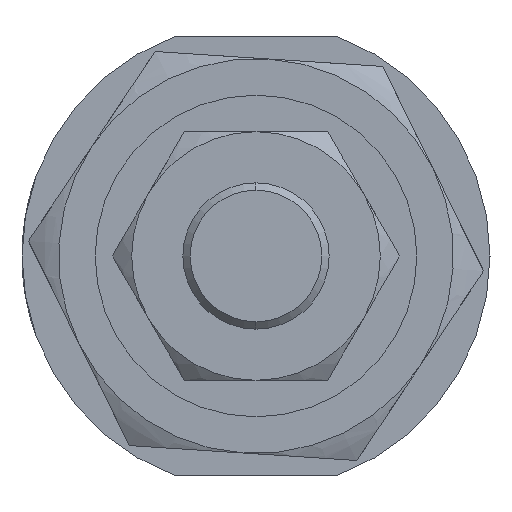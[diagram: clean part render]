
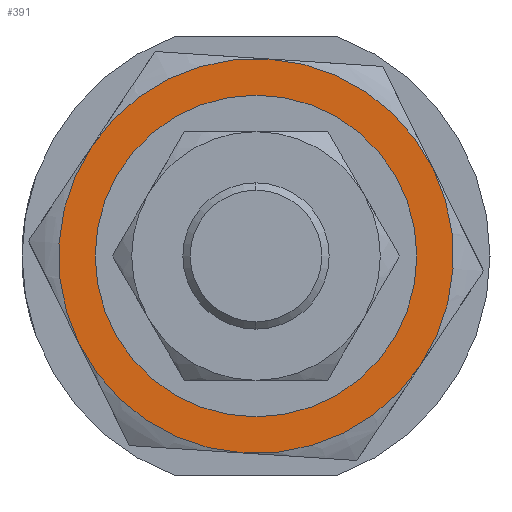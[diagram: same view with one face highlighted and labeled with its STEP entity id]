
A CAD part, left-side view. The second image highlights one B-rep face of the part: STEP entity #391.
In plain terms, the highlighted planar face has unit normal (-1, 0, 0) as drawn and (0, 0, -1) by its records, which use the part's own axes.
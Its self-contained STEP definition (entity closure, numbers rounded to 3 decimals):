
#85 = CARTESIAN_POINT ( 'NONE',  ( 0., 0., -5. ) ) ;
#168 = CIRCLE ( 'NONE', #1263, 13.5 ) ;
#196 = AXIS2_PLACEMENT_3D ( 'NONE', #85, #2028, #2529 ) ;
#216 = EDGE_CURVE ( 'NONE', #2057, #2882, #1952, .T. ) ;
#252 = EDGE_CURVE ( 'NONE', #1435, #793, #2934, .T. ) ;
#276 = DIRECTION ( 'NONE',  ( 1., 0., 0. ) ) ;
#293 = DIRECTION ( 'NONE',  ( 1., 0., 0. ) ) ;
#352 = EDGE_CURVE ( 'NONE', #793, #1435, #3095, .T. ) ;
#372 = CARTESIAN_POINT ( 'NONE',  ( 6.75, -11.691, -5. ) ) ;
#375 = ORIENTED_EDGE ( 'NONE', *, *, #1608, .F. ) ;
#391 = ADVANCED_FACE ( 'NONE', ( #3044, #2587 ), #1753, .F. ) ;
#462 = DIRECTION ( 'NONE',  ( 0., 0., 1. ) ) ;
#522 = CIRCLE ( 'NONE', #1533, 13.5 ) ;
#527 = VERTEX_POINT ( 'NONE', #1770 ) ;
#793 = VERTEX_POINT ( 'NONE', #2583 ) ;
#799 = DIRECTION ( 'NONE',  ( 0., 0., 1. ) ) ;
#1012 = VERTEX_POINT ( 'NONE', #2219 ) ;
#1036 = ORIENTED_EDGE ( 'NONE', *, *, #1747, .F. ) ;
#1123 = AXIS2_PLACEMENT_3D ( 'NONE', #2928, #2520, #1627 ) ;
#1147 = DIRECTION ( 'NONE',  ( 1., 0., 0. ) ) ;
#1263 = AXIS2_PLACEMENT_3D ( 'NONE', #1974, #462, #2382 ) ;
#1326 = AXIS2_PLACEMENT_3D ( 'NONE', #3136, #1619, #276 ) ;
#1348 = CARTESIAN_POINT ( 'NONE',  ( 6.75, 11.691, -5. ) ) ;
#1362 = CIRCLE ( 'NONE', #3187, 13.5 ) ;
#1379 = DIRECTION ( 'NONE',  ( 0., 0., 1. ) ) ;
#1435 = VERTEX_POINT ( 'NONE', #1746 ) ;
#1436 = CARTESIAN_POINT ( 'NONE',  ( 0., 0., -5. ) ) ;
#1490 = ORIENTED_EDGE ( 'NONE', *, *, #2157, .F. ) ;
#1533 = AXIS2_PLACEMENT_3D ( 'NONE', #2473, #1921, #2320 ) ;
#1608 = EDGE_CURVE ( 'NONE', #2882, #3358, #1362, .T. ) ;
#1619 = DIRECTION ( 'NONE',  ( 0., 0., 1. ) ) ;
#1620 = CIRCLE ( 'NONE', #2070, 13.5 ) ;
#1622 = ORIENTED_EDGE ( 'NONE', *, *, #352, .T. ) ;
#1627 = DIRECTION ( 'NONE',  ( 1., 0., 0. ) ) ;
#1691 = DIRECTION ( 'NONE',  ( 1., 0., 0. ) ) ;
#1746 = CARTESIAN_POINT ( 'NONE',  ( 10., 0., -5. ) ) ;
#1747 = EDGE_CURVE ( 'NONE', #3358, #2876, #522, .T. ) ;
#1753 = PLANE ( 'NONE',  #196 ) ;
#1763 = CARTESIAN_POINT ( 'NONE',  ( -6.75, -11.691, -5. ) ) ;
#1765 = DIRECTION ( 'NONE',  ( 0., 0., 1. ) ) ;
#1770 = CARTESIAN_POINT ( 'NONE',  ( -13.5, 0., -5. ) ) ;
#1803 = EDGE_CURVE ( 'NONE', #527, #2057, #1620, .T. ) ;
#1921 = DIRECTION ( 'NONE',  ( 0., 0., 1. ) ) ;
#1952 = CIRCLE ( 'NONE', #2510, 13.5 ) ;
#1974 = CARTESIAN_POINT ( 'NONE',  ( 0., 0., -5. ) ) ;
#1991 = EDGE_CURVE ( 'NONE', #2876, #1012, #2553, .T. ) ;
#2002 = ORIENTED_EDGE ( 'NONE', *, *, #252, .T. ) ;
#2028 = DIRECTION ( 'NONE',  ( 0., 0., 1. ) ) ;
#2057 = VERTEX_POINT ( 'NONE', #1763 ) ;
#2070 = AXIS2_PLACEMENT_3D ( 'NONE', #2477, #1379, #1691 ) ;
#2101 = ORIENTED_EDGE ( 'NONE', *, *, #216, .F. ) ;
#2157 = EDGE_CURVE ( 'NONE', #1012, #527, #168, .T. ) ;
#2193 = CARTESIAN_POINT ( 'NONE',  ( 13.5, 0., -5. ) ) ;
#2219 = CARTESIAN_POINT ( 'NONE',  ( -6.75, 11.691, -5. ) ) ;
#2320 = DIRECTION ( 'NONE',  ( 1., 0., 0. ) ) ;
#2382 = DIRECTION ( 'NONE',  ( 1., 0., 0. ) ) ;
#2473 = CARTESIAN_POINT ( 'NONE',  ( 0., 0., -5. ) ) ;
#2477 = CARTESIAN_POINT ( 'NONE',  ( 0., 0., -5. ) ) ;
#2510 = AXIS2_PLACEMENT_3D ( 'NONE', #2659, #1765, #1147 ) ;
#2520 = DIRECTION ( 'NONE',  ( 0., 0., 1. ) ) ;
#2529 = DIRECTION ( 'NONE',  ( 1., 0., 0. ) ) ;
#2553 = CIRCLE ( 'NONE', #1326, 13.5 ) ;
#2583 = CARTESIAN_POINT ( 'NONE',  ( -10., 0., -5. ) ) ;
#2587 = FACE_OUTER_BOUND ( 'NONE', #3236, .T. ) ;
#2646 = CARTESIAN_POINT ( 'NONE',  ( 0., 0., -5. ) ) ;
#2659 = CARTESIAN_POINT ( 'NONE',  ( 0., 0., -5. ) ) ;
#2693 = AXIS2_PLACEMENT_3D ( 'NONE', #2646, #799, #293 ) ;
#2714 = DIRECTION ( 'NONE',  ( 1., 0., 0. ) ) ;
#2722 = EDGE_LOOP ( 'NONE', ( #2002, #1622 ) ) ;
#2876 = VERTEX_POINT ( 'NONE', #1348 ) ;
#2882 = VERTEX_POINT ( 'NONE', #372 ) ;
#2928 = CARTESIAN_POINT ( 'NONE',  ( 0., 0., -5. ) ) ;
#2934 = CIRCLE ( 'NONE', #1123, 10. ) ;
#2996 = DIRECTION ( 'NONE',  ( 0., 0., 1. ) ) ;
#3044 = FACE_BOUND ( 'NONE', #2722, .T. ) ;
#3095 = CIRCLE ( 'NONE', #2693, 10. ) ;
#3099 = ORIENTED_EDGE ( 'NONE', *, *, #1991, .F. ) ;
#3136 = CARTESIAN_POINT ( 'NONE',  ( 0., 0., -5. ) ) ;
#3187 = AXIS2_PLACEMENT_3D ( 'NONE', #1436, #2996, #2714 ) ;
#3236 = EDGE_LOOP ( 'NONE', ( #1036, #375, #2101, #3263, #1490, #3099 ) ) ;
#3263 = ORIENTED_EDGE ( 'NONE', *, *, #1803, .F. ) ;
#3358 = VERTEX_POINT ( 'NONE', #2193 ) ;
